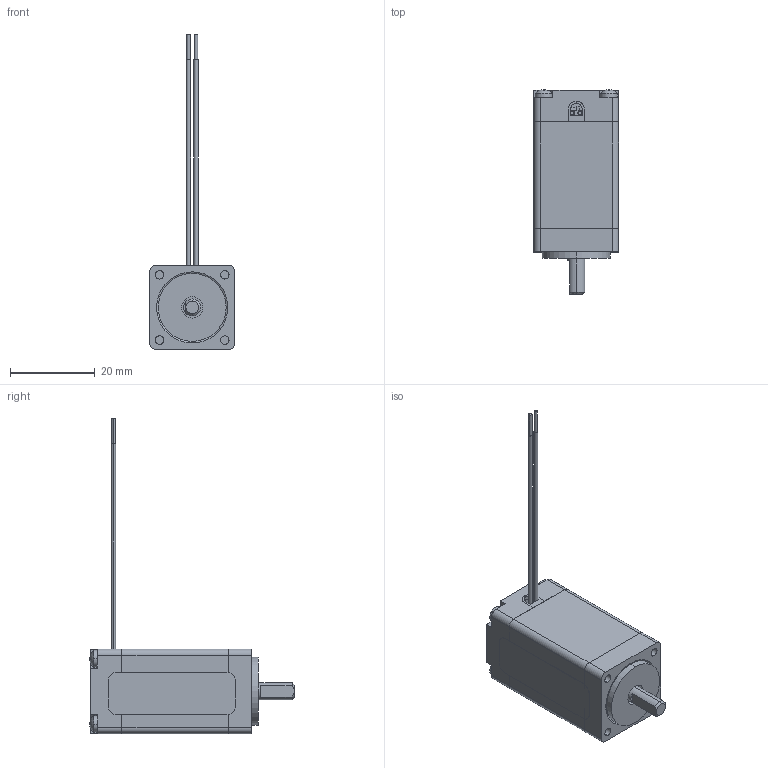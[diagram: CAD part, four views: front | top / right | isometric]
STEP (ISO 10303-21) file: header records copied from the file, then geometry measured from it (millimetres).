
FILE_DESCRIPTION( ('This file contains a STEP AP42 implementation' ,'as created by ZW3D STEP Interface translator.' ,'') ,'2;1' );
FILE_NAME( '20唅蛌萇儂 08H2038-050-4AL.stp' ,'25 318.152728', (''), ('ZWCAD Software Co.'), 'Version 1.0', 'ZW3D to STEP translator', '' );
FILE_SCHEMA(('AUTOMOTIVE_DESIGN { 1 0 10303 214 1 1 1 1 }'));
Length unit declared in the file: millimetre
Products named in the file (1): 0
Bounding box: 20.1 x 48.3 x 74.5 mm (x, y, z)
Volume: 7402.8 mm3; surface area: 15218.6 mm2
Topology: 27 solids, 30 shells, 1182 faces, 3224 edges, 2118 vertices
Faces by surface type: plane 697, cylinder 395, bspline 77, cone 9, sphere 4
Entity records: 39369 total; most frequent: CARTESIAN_POINT 8036, ORIENTED_EDGE 6434, DIRECTION 6054, EDGE_CURVE 3223, VERTEX_POINT 2117, VECTOR 2102, LINE 2102, AXIS2_PLACEMENT_3D 1976
